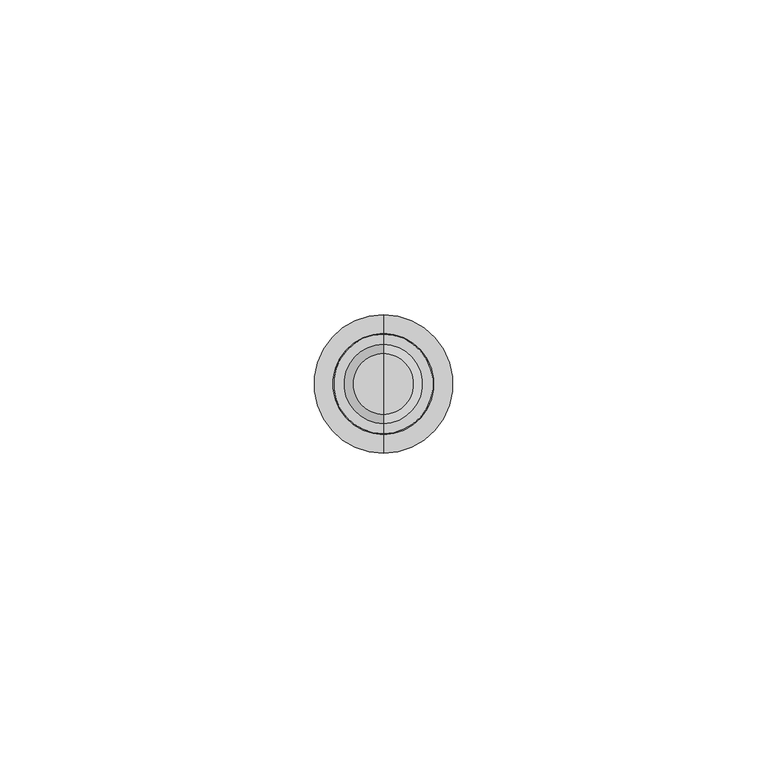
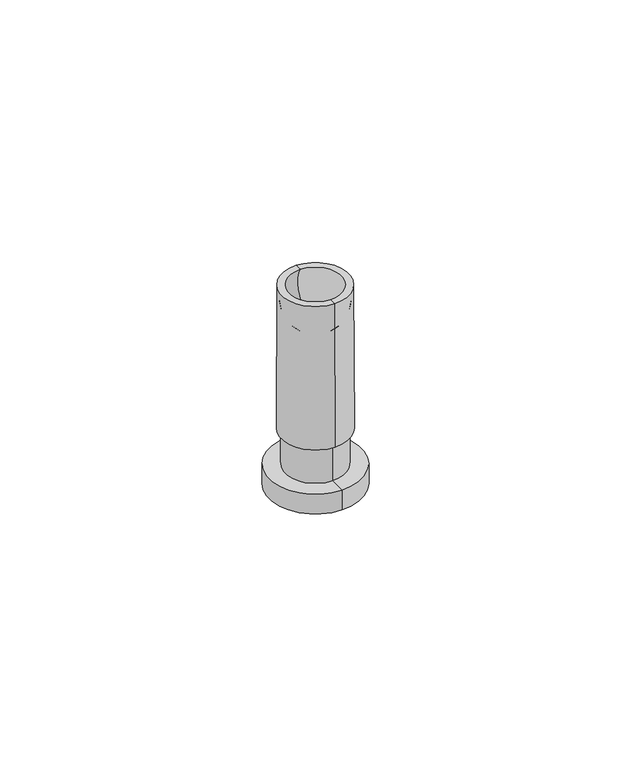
"""IFC4 building model written with IfcOpenShell, lengths in millimetres: light fixture geometry."""

from ifc_helpers import new_model, si_unit, point, frame, origin, place, context, project, spatial, polyline, circle_curve, ellipse_curve, trimmed, source, transform, mapped, element, save
from ifc_brep_helpers import plane_surface, cylinder_surface, revolved_surface, advanced_brep


def light_fixture_b5696cb0(model_context):
    return source(origin(), model_context, "Body", "AdvancedBrep", [
        advanced_brep(
        [(-9.52e-05, -6.3158488, 78.6), (-9.52e-05, 6.2583191, 78.6), (-9.52e-05, 7.8836102, 78.6), (-9.52e-05, -7.9411399, 78.6), (-9.52e-05, -11.0438403, 28.6), (-9.52e-05, 10.9863106, 28.6), (-9.52e-05, -0.0287648, 28.6), (-9.52e-05, -11.0438403, 33.6), (-9.52e-05, 10.9863106, 33.6), (-9.52e-05, -7.1922162, 33.6), (-9.52e-05, 7.1346865, 33.6), (-9.52e-05, -7.1922162, 42.6), (-9.52e-05, 7.1346865, 42.6), (-9.52e-05, -8.0576249, 42.6), (-9.52e-05, 8.0000952, 42.6), (-9.52e-05, -4.8850314, 69.5661747), (-9.52e-05, 4.8275018, 69.5661747), (-9.52e-05, -0.0287648, 69.5661747)],
        [
            (0, 1, circle_curve(frame((-9.52e-05, -0.0287648, 78.6), z_axis=(0.0, 0.0, -1.0), x_axis=(0.0, 1.0, 0.0)), 6.2870839)),
            (1, 2),
            (2, 3, circle_curve(frame((-9.52e-05, -0.0287648, 78.6), z_axis=(0.0, 0.0, 1.0), x_axis=(0.0, 1.0, 0.0)), 7.9123751)),
            (3, 0),
            (1, 0, circle_curve(frame((-9.52e-05, -0.0287648, 78.6), z_axis=(0.0, 0.0, -1.0), x_axis=(0.0, 1.0, 0.0)), 6.2870839)),
            (3, 2, circle_curve(frame((-9.52e-05, -0.0287648, 78.6), z_axis=(0.0, 0.0, 1.0), x_axis=(0.0, 1.0, 0.0)), 7.9123751)),
            (4, 5, circle_curve(frame((-9.52e-05, -0.0287648, 28.6), z_axis=(0.0, 0.0, -1.0), x_axis=(0.0, 1.0, 0.0)), 11.0150755)),
            (5, 6),
            (6, 4),
            (5, 4, circle_curve(frame((-9.52e-05, -0.0287648, 28.6), z_axis=(0.0, 0.0, -1.0), x_axis=(0.0, 1.0, 0.0)), 11.0150755)),
            (7, 8, circle_curve(frame((-9.52e-05, -0.0287648, 33.6), z_axis=(0.0, 0.0, -1.0), x_axis=(0.0, 1.0, 0.0)), 11.0150755)),
            (8, 5),
            (4, 7),
            (8, 7, circle_curve(frame((-9.52e-05, -0.0287648, 33.6), z_axis=(0.0, 0.0, -1.0), x_axis=(0.0, 1.0, 0.0)), 11.0150755)),
            (9, 10, circle_curve(frame((-9.52e-05, -0.0287648, 33.6), z_axis=(0.0, 0.0, -1.0), x_axis=(0.0, 1.0, 0.0)), 7.1634514)),
            (10, 8),
            (7, 9),
            (10, 9, circle_curve(frame((-9.52e-05, -0.0287648, 33.6), z_axis=(0.0, 0.0, -1.0), x_axis=(0.0, 1.0, 0.0)), 7.1634514)),
            (11, 12, circle_curve(frame((-9.52e-05, -0.0287648, 42.6), z_axis=(0.0, 0.0, -1.0), x_axis=(0.0, 1.0, 0.0)), 7.1634514)),
            (12, 10),
            (9, 11),
            (12, 11, circle_curve(frame((-9.52e-05, -0.0287648, 42.6), z_axis=(0.0, 0.0, -1.0), x_axis=(0.0, 1.0, 0.0)), 7.1634514)),
            (13, 14, circle_curve(frame((-9.52e-05, -0.0287648, 42.6), z_axis=(0.0, 0.0, -1.0), x_axis=(0.0, 1.0, 0.0)), 8.02886)),
            (14, 12),
            (11, 13),
            (14, 13, circle_curve(frame((-9.52e-05, -0.0287648, 42.6), z_axis=(0.0, 0.0, -1.0), x_axis=(0.0, 1.0, 0.0)), 8.02886)),
            (2, 14),
            (13, 3),
            (15, 16, circle_curve(frame((-9.52e-05, -0.0287648, 69.5661747), z_axis=(0.0, 0.0, -1.0), x_axis=(0.0, 1.0, 0.0)), 4.8562666)),
            (16, 1, circle_curve(frame((-9.52e-05, 0.3316539, 74.9084693), z_axis=(1.0, 0.0, 0.0), x_axis=(0.0, 1.0, 0.0)), 6.9823177)),
            (0, 15, circle_curve(frame((-9.52e-05, -0.3891835, 74.9084693), z_axis=(1.0, 0.0, 0.0), x_axis=(0.0, -1.0, 0.0)), 6.9823177)),
            (16, 15, circle_curve(frame((-9.52e-05, -0.0287648, 69.5661747), z_axis=(0.0, 0.0, -1.0), x_axis=(0.0, 1.0, 0.0)), 4.8562666)),
            (17, 16),
            (15, 17),
        ],
        [
            plane_surface(frame((-9.52e-05, -0.0287648, 78.6), z_axis=(0.0, 0.0, 1.0), x_axis=(0.0, 1.0, 0.0))),
            plane_surface(frame((-9.52e-05, -0.0287648, 28.6), z_axis=(0.0, 0.0, -1.0), x_axis=(0.0, 1.0, 0.0))),
            cylinder_surface(frame((-9.52e-05, -0.0287648, 78.6), z_axis=(0.0, 0.0, 1.0), x_axis=(0.0, 1.0, 0.0)), 11.0150755),
            plane_surface(frame((-9.52e-05, -0.0287648, 33.6), z_axis=(0.0, 0.0, 1.0), x_axis=(0.0, 1.0, 0.0))),
            cylinder_surface(frame((-9.52e-05, -0.0287648, 78.6), z_axis=(0.0, 0.0, 1.0), x_axis=(0.0, 1.0, 0.0)), 7.1634514),
            plane_surface(frame((-9.52e-05, -0.0287648, 42.6), z_axis=(0.0, 0.0, -1.0), x_axis=(0.0, 1.0, 0.0))),
            revolved_surface(polyline([(-9.52e-05, 8.0000952, 42.6), (-9.52e-05, 7.8836102, 78.6)]), (-9.52e-05, -0.0287648, 78.6), (0.0, 0.0, 1.0)),
            revolved_surface(trimmed(ellipse_curve(frame((-9.52e-05, 0.3316539, 74.9084693), z_axis=(-1.0, 0.0, 0.0), x_axis=(0.0, 1.0, 0.0)), 6.9823177, 6.9823177), [point((-9.52e-05, 6.2583191, 78.6))], [point((-9.52e-05, 4.8275018, 69.5661747))], True, "CARTESIAN"), (-9.52e-05, -0.0287648, 78.6), (0.0, 0.0, 1.0)),
            plane_surface(frame((-9.52e-05, -0.0287648, 69.5661747), z_axis=(0.0, 0.0, 1.0), x_axis=(0.0, 1.0, 0.0))),
        ],
        [
            (0, [[1, 2, 3, 4]]),
            (0, [[5, -4, 6, -2]]),
            (1, [[7, 8, 9]]),
            (1, [[10, -9, -8]]),
            (2, [[11, 12, -7, 13]]),
            (2, [[14, -13, -10, -12]]),
            (3, [[15, 16, -11, 17]]),
            (3, [[18, -17, -14, -16]]),
            (4, [[19, 20, -15, 21]]),
            (4, [[22, -21, -18, -20]]),
            (5, [[23, 24, -19, 25]]),
            (5, [[26, -25, -22, -24]]),
            (6, [[-3, 27, -23, 28]]),
            (6, [[-6, -28, -26, -27]]),
            (7, [[29, 30, -1, 31]]),
            (7, [[32, -31, -5, -30]]),
            (8, [[33, -29, 34]]),
            (8, [[-34, -32, -33]]),
        ],
    ),
    ])


if __name__ == "__main__":
    model = new_model("IFC4")
    model_context = context("Model", 3, world=origin())
    ifc_project = project(units=[si_unit("LENGTHUNIT", "METRE", prefix="MILLI")], contexts=[model_context])
    site = spatial("IfcSite", under=ifc_project)
    building = spatial("IfcBuilding", under=site)
    placement = place(None, origin())
    light_fixture_shape = light_fixture_b5696cb0(model_context)
    element("IfcLightFixture", 1, at=placement, inside=building, context=model_context, shape_type="MappedRepresentation", body=[
        mapped(light_fixture_shape, transform((0.0, 0.0, 0.0), x_axis=(1.0, 0.0, 0.0), y_axis=(0.0, 1.0, 0.0), z_axis=(0.0, 0.0, 1.0))),
    ])
    save(model, "model.ifc")
